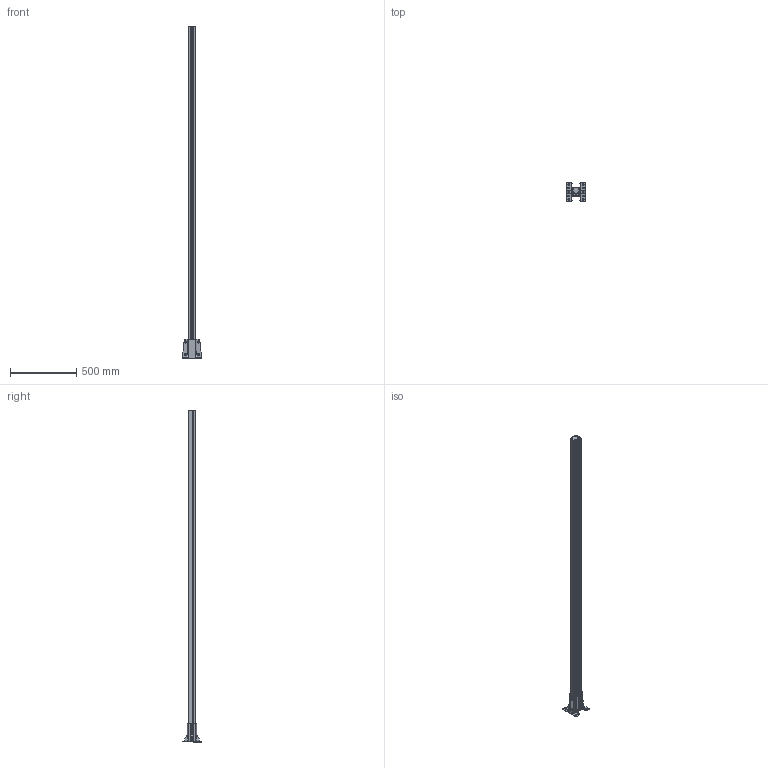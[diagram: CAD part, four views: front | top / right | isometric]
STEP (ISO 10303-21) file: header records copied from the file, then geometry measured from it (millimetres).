
FILE_DESCRIPTION(/* description */ (''),/* implementation_level */ '2;1');
FILE_NAME(/* name */ 'Z:\Marketing\fastline\Palo H=2500.stp',/* time_stamp */ '2021-10-15T14:59:43+02:00',/* author */ ('mpistoia'),/* organization */ (''),/* preprocessor_version */ 'ST-DEVELOPER v17.2',/* originating_system */ 'Autodesk Inventor 2019',/* authorisation */ '');
FILE_SCHEMA (('AUTOMOTIVE_DESIGN { 1 0 10303 214 3 1 1 }'));
Length unit declared in the file: millimetre
Products named in the file (1): Palo H=2500
Bounding box: 145.13 x 146.95 x 2503 mm (x, y, z)
Volume: 1938658.5 mm3; surface area: 1761799.4 mm2
Topology: 1 solids, 1 shells, 567 faces, 1528 edges, 970 vertices
Faces by surface type: plane 339, cylinder 154, cone 56, torus 14, bspline 4
Full cylindrical faces by diameter (mm): 7.5 x4, 8 x4, 9.5 x2, 13.2 x8
Entity records: 18440 total; most frequent: CARTESIAN_POINT 3605, ORIENTED_EDGE 3056, DIRECTION 2975, EDGE_CURVE 1528, AXIS2_PLACEMENT_3D 1022, VERTEX_POINT 970, LINE 931, VECTOR 931
